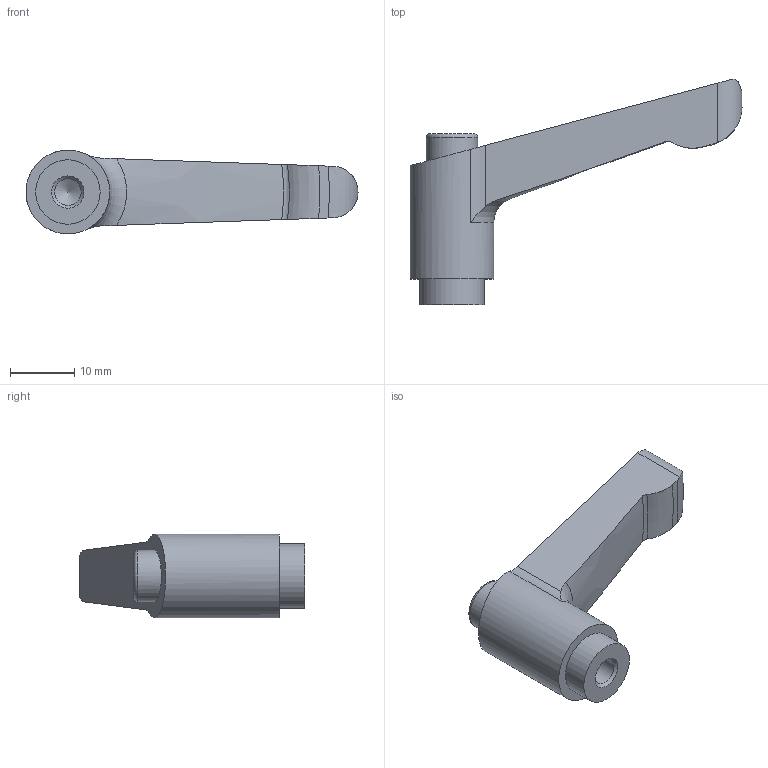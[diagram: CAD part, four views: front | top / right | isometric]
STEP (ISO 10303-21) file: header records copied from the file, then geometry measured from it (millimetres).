
FILE_DESCRIPTION( ( 'STEP AP203' ), '1' );
FILE_NAME( 'C:/Temp/Ganter_Step_05_03_2020/data/2_1/gn303_1/gn303_1_b/Adjustable hand lever GN 303.1-45-M5-SW-S.stp', '2020-03-05T11:21:54', ( 'License CC BY-ND 4.0' ), ( 'CADENAS' ), ' ', 'PARTsolutions', ' ' );
FILE_SCHEMA( ( 'CONFIG_CONTROL_DESIGN' ) );
Length unit declared in the file: millimetre
Products named in the file (1): _Adjustable hand lever GN 303.1-45-M5-SW-S
Bounding box: 51.49 x 35 x 12.99 mm (x, y, z)
Volume: 5823.7 mm3; surface area: 2732.6 mm2
Topology: 1 solids, 1 shells, 24 faces, 59 edges, 39 vertices
Faces by surface type: cylinder 7, plane 6, torus 6, cone 5
Full cylindrical faces by diameter (mm): 4.134 x1, 8 x1, 10 x1, 13 x1
Entity records: 834 total; most frequent: CARTESIAN_POINT 283, DIRECTION 100, ORIENTED_EDGE 98, EDGE_CURVE 49, AXIS2_PLACEMENT_3D 46, VERTEX_POINT 37, EDGE_LOOP 33, FACE_OUTER_BOUND 29
